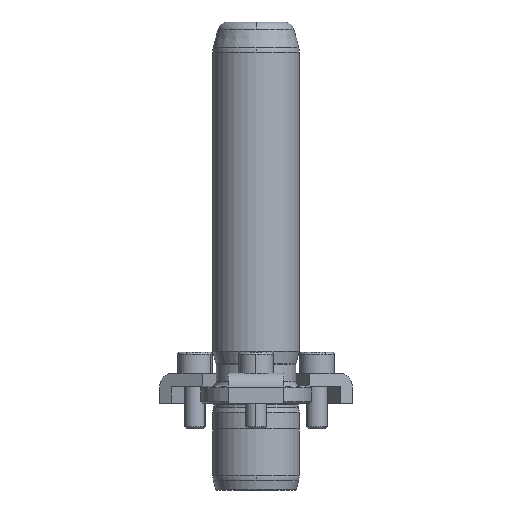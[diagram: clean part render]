
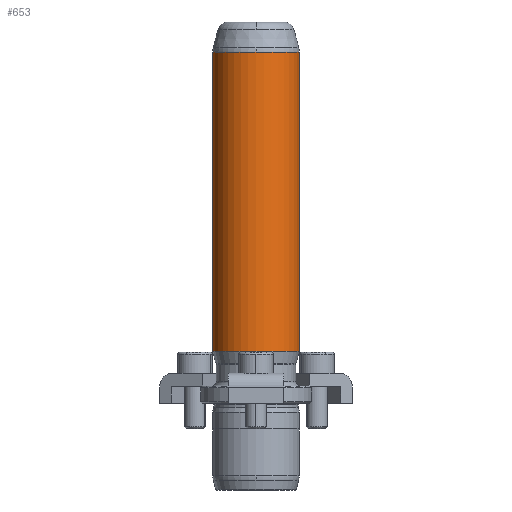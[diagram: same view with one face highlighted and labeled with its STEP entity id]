
A CAD part, front view. The second image highlights one B-rep face of the part: STEP entity #653.
In plain terms, the highlighted cylindrical face has radius 12.5 mm (diameter 25 mm), a partial arc.
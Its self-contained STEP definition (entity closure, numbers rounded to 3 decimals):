
#566=CARTESIAN_POINT('',(0.0,-12.5,101.342));
#567=VERTEX_POINT('',#566);
#594=CARTESIAN_POINT('',(-12.5,0.,101.342));
#595=VERTEX_POINT('',#594);
#603=CARTESIAN_POINT('',(0.0,0.,101.342));
#604=DIRECTION('',(0.0,0.0,1.0));
#605=DIRECTION('',(1.0,0.0,0.0));
#606=AXIS2_PLACEMENT_3D('',#603,#604,#605);
#607=CIRCLE('',#606,12.5);
#608=EDGE_CURVE('',#595,#567,#607,.T.);
#613=CARTESIAN_POINT('',(0.0,0.,58.171));
#614=DIRECTION('',(0.0,0.,1.0));
#615=DIRECTION('',(1.0,0.0,0.0));
#616=AXIS2_PLACEMENT_3D('',#613,#614,#615);
#617=CYLINDRICAL_SURFACE('',#616,12.5);
#618=CARTESIAN_POINT('',(12.5,0.,101.342));
#619=VERTEX_POINT('',#618);
#620=CARTESIAN_POINT('',(12.5,0.,15.0));
#621=VERTEX_POINT('',#620);
#622=CARTESIAN_POINT('',(12.5,0.,101.342));
#623=DIRECTION('',(0.0,0.0,-1.0));
#624=VECTOR('',#623,86.342);
#625=LINE('',#622,#624);
#626=EDGE_CURVE('',#619,#621,#625,.T.);
#627=ORIENTED_EDGE('',*,*,#626,.F.);
#628=CARTESIAN_POINT('',(0.0,0.,101.342));
#629=DIRECTION('',(0.0,0.0,1.0));
#630=DIRECTION('',(1.0,0.0,0.0));
#631=AXIS2_PLACEMENT_3D('',#628,#629,#630);
#632=CIRCLE('',#631,12.5);
#633=EDGE_CURVE('',#567,#619,#632,.T.);
#634=ORIENTED_EDGE('',*,*,#633,.F.);
#635=ORIENTED_EDGE('',*,*,#608,.F.);
#636=CARTESIAN_POINT('',(-12.5,0.,15.0));
#637=VERTEX_POINT('',#636);
#638=CARTESIAN_POINT('',(-12.5,0.,101.342));
#639=DIRECTION('',(0.0,0.0,-1.0));
#640=VECTOR('',#639,86.342);
#641=LINE('',#638,#640);
#642=EDGE_CURVE('',#595,#637,#641,.T.);
#643=ORIENTED_EDGE('',*,*,#642,.T.);
#644=CARTESIAN_POINT('',(0.0,0.,15.0));
#645=DIRECTION('',(0.0,0.0,1.0));
#646=DIRECTION('',(1.0,0.0,0.0));
#647=AXIS2_PLACEMENT_3D('',#644,#645,#646);
#648=CIRCLE('',#647,12.5);
#649=EDGE_CURVE('',#637,#621,#648,.T.);
#650=ORIENTED_EDGE('',*,*,#649,.T.);
#651=EDGE_LOOP('',(#627,#634,#635,#643,#650));
#652=FACE_OUTER_BOUND('',#651,.T.);
#653=ADVANCED_FACE('',(#652),#617,.T.);
